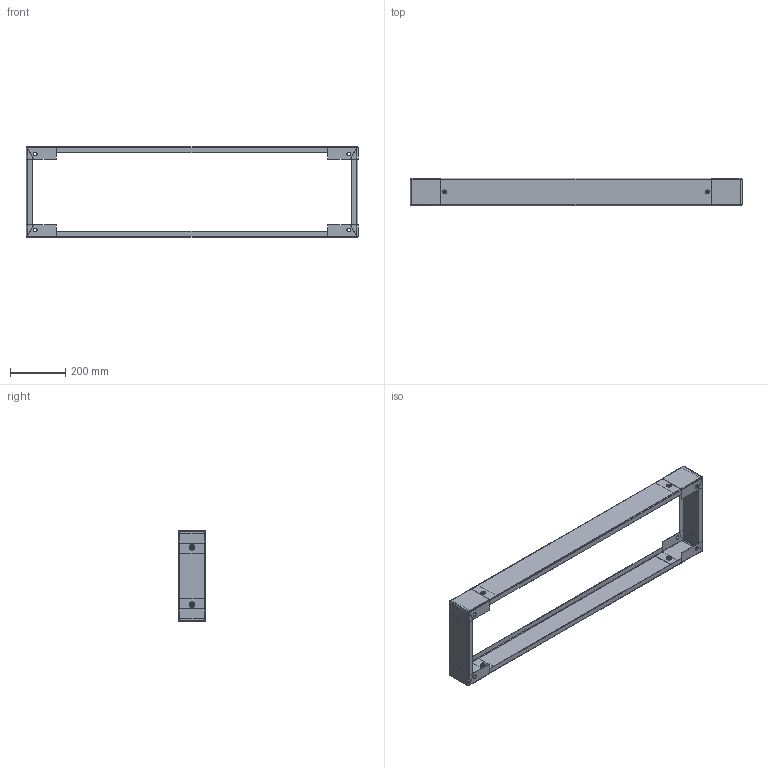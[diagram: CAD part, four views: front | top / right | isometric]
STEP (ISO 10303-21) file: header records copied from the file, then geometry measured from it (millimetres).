
FILE_DESCRIPTION (( 'STEP AP203' ), '1' );
FILE_NAME ('MSNS1124_V1.step', '2014-06-02T08:50:16', ( '' ), ( '' ), 'SwSTEP 2.0', 'SolidWorks 2011', '' );
FILE_SCHEMA (( 'CONFIG_CONTROL_DESIGN' ));
Length unit declared in the file: millimetre
Products named in the file (11): MSNS1124_V1; 6820-0125_07; 6860010301 M6x12 SS Torx CSK Screw_M6 - L12; 6820-0125_05; 6708-0347; 6862-0102-01; 6862-0102-01N; 6862-0102-01C; 6820-0129_DefaultSM-FLAT-PATTERN; 6820-0128_DefaultSM-FLAT-PATTERN; 6820-0118
Assembly tree (23 placements, depth 4):
  MSNS1124_V1
    6860010301 M6x12 SS Torx CSK Screw_M6 - L12  x8
    6708-0347  x4
      6862-0102-01
        6862-0102-01N
        6862-0102-01C
      6820-0118
      6820-0128_DefaultSM-FLAT-PATTERN
      6820-0129_DefaultSM-FLAT-PATTERN
    6820-0125_07  x2
    6820-0125_05  x2
Bounding box: 1200 x 100 x 328 mm (x, y, z)
Volume: 851617.8 mm3; surface area: 1047259.3 mm2
Topology: 40 solids, 40 shells, 1832 faces, 4096 edges, 2368 vertices
Faces by surface type: plane 1048, cylinder 512, cone 96, torus 96, bspline 80
Entity records: 11440 total; most frequent: CARTESIAN_POINT 2231, DIRECTION 1703, ORIENTED_EDGE 1514, EDGE_CURVE 757, AXIS2_PLACEMENT_3D 610, LINE 483, VECTOR 483, VERTEX_POINT 434
